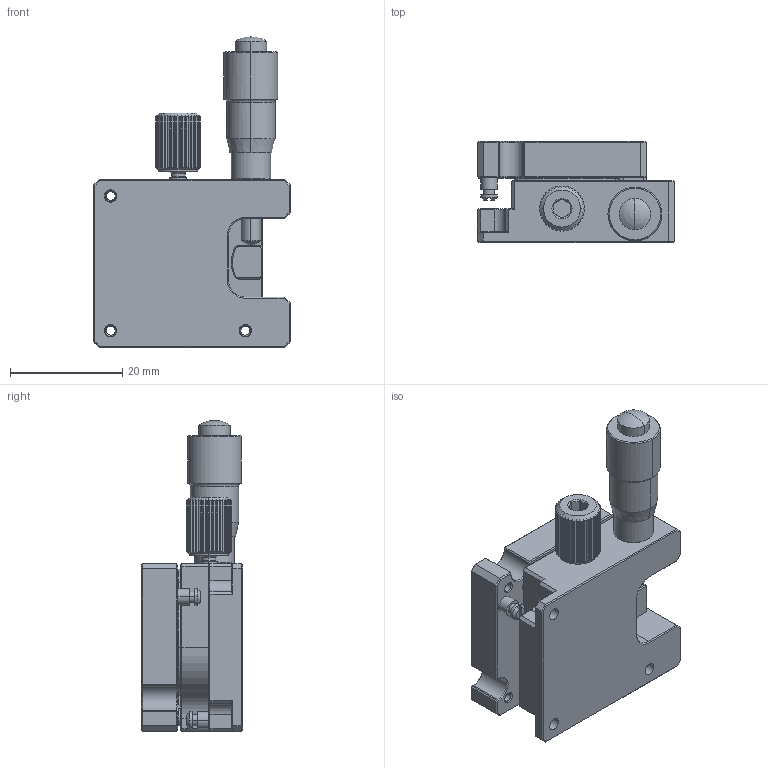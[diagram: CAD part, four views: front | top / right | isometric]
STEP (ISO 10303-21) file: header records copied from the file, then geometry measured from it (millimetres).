
FILE_DESCRIPTION((''),'2;1');
FILE_NAME('ASSY-PST-30_ASM_10_ASM','2021-06-21T18:30:04',('windows10'),(''),'CREO PARAMETRIC BY PTC INC, 2018260','CREO PARAMETRIC BY PTC INC, 2018260','');
FILE_SCHEMA(('CONFIG_CONTROL_DESIGN'));
Length unit declared in the file: millimetre
Products named in the file (9): BOTTOM-30-18_26; TOP-30-18_16; MICRO-HEAD-6D5-SJP_29_1; MICRO-HEAD-6D5-SJP_29_2; MICRO-HEAD-6D5-SJP_29_ASM; HOOK-SPRING_7; PIN-1D5-5_3; STOPPER-8-M3-5_35; ASSY-PST-30_ASM_10_ASM
Assembly tree (9 placements, depth 3):
  ASSY-PST-30_ASM_10_ASM
    BOTTOM-30-18_26
    TOP-30-18_16
    MICRO-HEAD-6D5-SJP_29_ASM
      MICRO-HEAD-6D5-SJP_29_1
      MICRO-HEAD-6D5-SJP_29_2
    HOOK-SPRING_7  x2
    PIN-1D5-5_3
    STOPPER-8-M3-5_35
Bounding box: 35 x 18 x 55.45 mm (x, y, z)
Volume: 15783.9 mm3; surface area: 9364.4 mm2
Topology: 8 solids, 9 shells, 701 faces, 1875 edges, 1227 vertices
Faces by surface type: plane 430, cylinder 175, cone 88, torus 4, sphere 4
Entity records: 21998 total; most frequent: CARTESIAN_POINT 4873, ORIENTED_EDGE 3622, DIRECTION 3472, EDGE_CURVE 1813, AXIS2_PLACEMENT_3D 1275, VERTEX_POINT 1189, VECTOR 922, LINE 922
